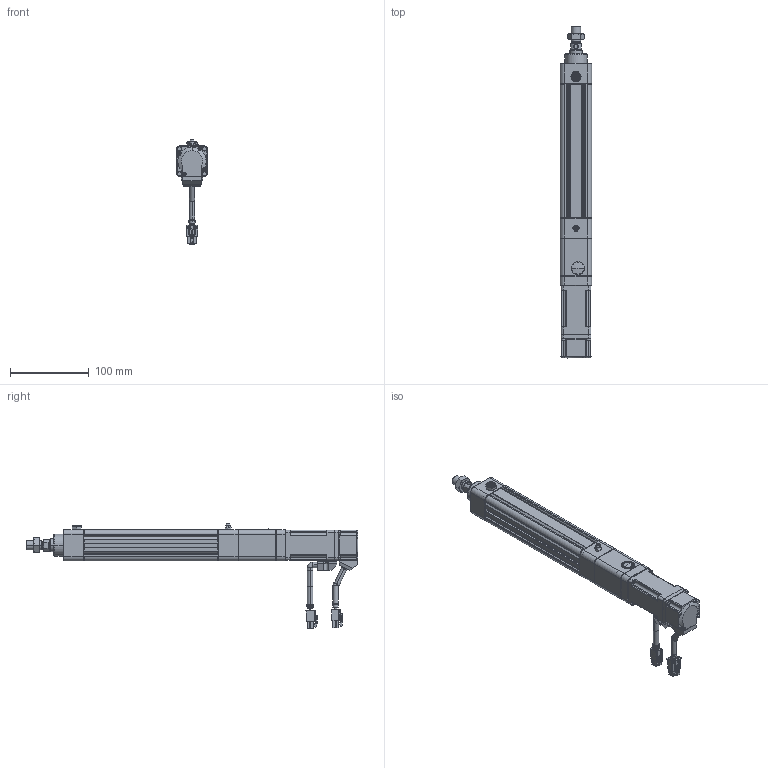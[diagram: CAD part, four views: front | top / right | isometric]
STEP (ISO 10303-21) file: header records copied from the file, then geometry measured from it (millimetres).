
FILE_DESCRIPTION((''),'2;1');
FILE_NAME('HE32-D-100-2-5_ASM','2019-11-20T',('Administrator'),(''),'CREO PARAMETRIC BY PTC INC, 2014190','CREO PARAMETRIC BY PTC INC, 2014190','');
FILE_SCHEMA(('CONFIG_CONTROL_DESIGN'));
Length unit declared in the file: millimetre
Products named in the file (22): HE32-001-X1; HE32-002-X1; HE32-003-X1; HE32-007-X1; HE32-008-X1; 1_1; 2_1; 3_1; 4_1; 5_1; 6_1; 7_1; ASM0001_ASM; TF1622-20; SLM-01; YZ-M6X1; SKT-13; HE32-005-X1; HE32-004-X1; LGLM-M6-22; HE32-D-P-008-X1; HE32-D-100-2-5_ASM
Assembly tree (24 placements, depth 3):
  HE32-D-100-2-5_ASM
    HE32-001-X1
    HE32-002-X1
    HE32-003-X1
    HE32-007-X1
    HE32-008-X1
    ASM0001_ASM
      1_1
      2_1
      3_1
      4_1
      5_1
      6_1
      7_1
    TF1622-20
    SLM-01
    YZ-M6X1
    SKT-13
    HE32-005-X1
    HE32-004-X1
    LGLM-M6-22  x4
    HE32-D-P-008-X1
Bounding box: 40 x 422.03 x 134.2 mm (x, y, z)
Volume: 418116.5 mm3; surface area: 176916.4 mm2
Topology: 23 solids, 45 shells, 1890 faces, 4613 edges, 2877 vertices
Faces by surface type: plane 814, cylinder 576, cone 448, torus 22, bspline 18, sphere 12
Entity records: 54819 total; most frequent: CARTESIAN_POINT 11028, DIRECTION 9491, ORIENTED_EDGE 8685, EDGE_CURVE 4387, AXIS2_PLACEMENT_3D 3490, VERTEX_POINT 2748, VECTOR 2511, LINE 2511
